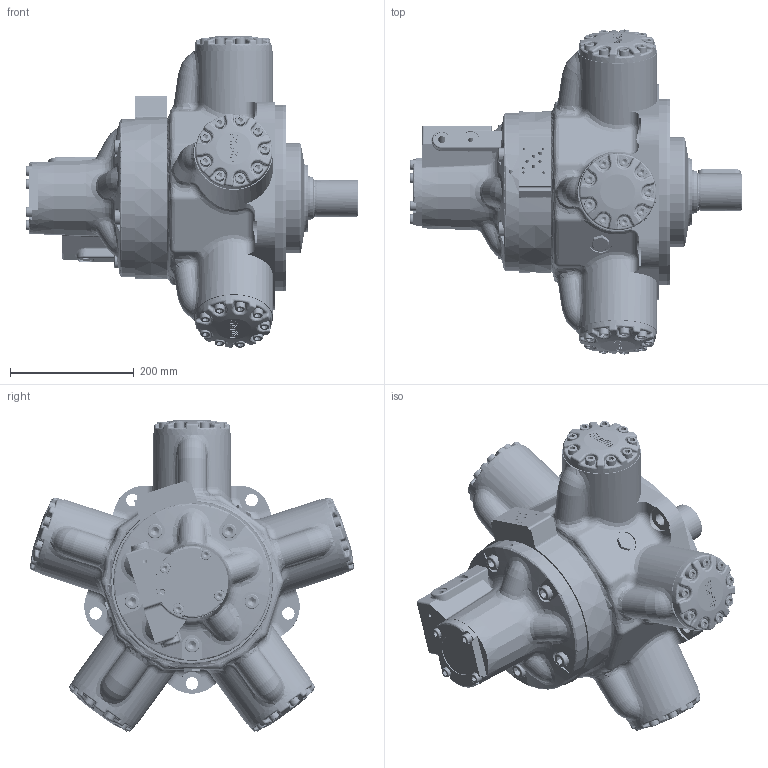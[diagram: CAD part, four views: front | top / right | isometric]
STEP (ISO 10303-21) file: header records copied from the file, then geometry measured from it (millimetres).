
FILE_DESCRIPTION((''),'2;1');
FILE_NAME('C:\Users\MNorman\Desktop\TEMP STUFF\HMC080 P FM3 C 70.stp','2012-10-02T15:52:32',('mnorman'),(''),'Autodesk Inventor 2013','Autodesk Inventor 2013','');
FILE_SCHEMA(('AUTOMOTIVE_DESIGN { 1 0 10303 214 1 1 1 1 }'));
Length unit declared in the file: millimetre
Products named in the file (1): Part4
Bounding box: 535.65 x 524.38 x 502.41 mm (x, y, z)
Volume: 609187.4 mm3; surface area: 1652085.2 mm2
Topology: 129 solids, 130 shells, 4465 faces, 10658 edges, 6429 vertices
Faces by surface type: plane 1536, cylinder 935, bspline 833, torus 589, cone 347, sphere 225
Full cylindrical faces by diameter (mm): 3 x2, 4 x4, 4.134 x4, 5.5 x6, 6 x1, 6.2 x6, 8 x2, 8.016 x1, 8.382 x57, 9.945 x1, 10 x59, 10.109 x8, 10.5 x45, 10.8 x10, 11.328 x1, 11.5 x1, 11.8 x2, 11.906 x4, 13.15 x1, 14.351 x5, 15.875 x5, 16 x59, 16.281 x5, 16.5 x45, 16.51 x1, 16.7 x5, 17 x10, 19.05 x3, 20 x5, 22 x10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
Entity records: 144784 total; most frequent: CARTESIAN_POINT 50026, ORIENTED_EDGE 17944, DIRECTION 17823, EDGE_CURVE 8972, AXIS2_PLACEMENT_3D 7462, VERTEX_POINT 5836, EDGE_LOOP 5802, FACE_OUTER_BOUND 4464
